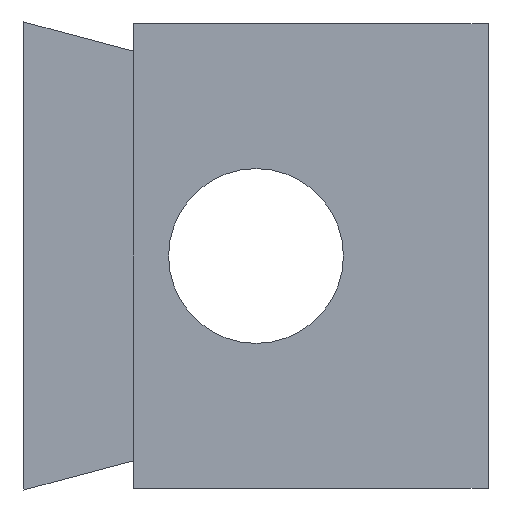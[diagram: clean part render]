
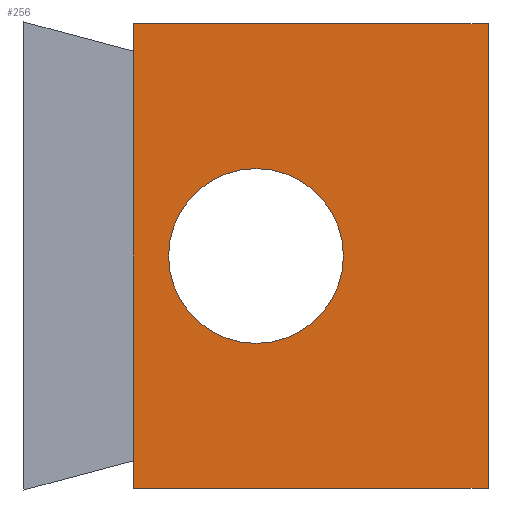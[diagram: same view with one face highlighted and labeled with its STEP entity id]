
A CAD part, left-side view. The second image highlights one B-rep face of the part: STEP entity #256.
In plain terms, the highlighted planar face has unit normal (-1, 0, 0).
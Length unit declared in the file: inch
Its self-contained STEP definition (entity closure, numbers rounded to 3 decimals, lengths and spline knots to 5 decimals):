
#31=FACE_BOUND('',#55,.T.);
#33=CIRCLE('',#292,0.16);
#39=FACE_OUTER_BOUND('',#54,.T.);
#54=EDGE_LOOP('',(#172,#173,#174,#175));
#55=EDGE_LOOP('',(#176));
#71=LINE('',#374,#91);
#72=LINE('',#376,#92);
#73=LINE('',#378,#93);
#74=LINE('',#379,#94);
#91=VECTOR('',#314,0.3937);
#92=VECTOR('',#315,0.3937);
#93=VECTOR('',#316,0.3937);
#94=VECTOR('',#317,0.3937);
#111=VERTEX_POINT('',#372);
#112=VERTEX_POINT('',#373);
#113=VERTEX_POINT('',#375);
#114=VERTEX_POINT('',#377);
#115=VERTEX_POINT('',#380);
#135=EDGE_CURVE('',#111,#112,#71,.T.);
#136=EDGE_CURVE('',#112,#113,#72,.T.);
#137=EDGE_CURVE('',#113,#114,#73,.T.);
#138=EDGE_CURVE('',#114,#111,#74,.T.);
#139=EDGE_CURVE('',#115,#115,#33,.T.);
#172=ORIENTED_EDGE('',*,*,#135,.T.);
#173=ORIENTED_EDGE('',*,*,#136,.T.);
#174=ORIENTED_EDGE('',*,*,#137,.T.);
#175=ORIENTED_EDGE('',*,*,#138,.T.);
#176=ORIENTED_EDGE('',*,*,#139,.T.);
#246=PLANE('',#291);
#256=ADVANCED_FACE('',(#39,#31),#246,.T.);
#291=AXIS2_PLACEMENT_3D('',#371,#312,#313);
#292=AXIS2_PLACEMENT_3D('',#381,#318,#319);
#312=DIRECTION('center_axis',(-1.,0.,0.));
#313=DIRECTION('ref_axis',(0.,0.,1.));
#314=DIRECTION('',(0.,1.,0.));
#315=DIRECTION('',(0.,0.,-1.));
#316=DIRECTION('',(0.,-1.,0.));
#317=DIRECTION('',(0.,0.,1.));
#318=DIRECTION('center_axis',(1.,0.,0.));
#319=DIRECTION('ref_axis',(0.,0.,-1.));
#371=CARTESIAN_POINT('Origin',(0.,0.325,8.47125));
#372=CARTESIAN_POINT('',(0.,0.,8.89625));
#373=CARTESIAN_POINT('',(0.,0.65,8.89625));
#374=CARTESIAN_POINT('',(0.,0.,8.89625));
#375=CARTESIAN_POINT('',(0.,0.65,8.04625));
#376=CARTESIAN_POINT('',(0.,0.65,8.89625));
#377=CARTESIAN_POINT('',(0.,0.,8.04625));
#378=CARTESIAN_POINT('',(0.,0.65,8.04625));
#379=CARTESIAN_POINT('',(0.,0.,8.04625));
#380=CARTESIAN_POINT('',(0.,0.425,8.31125));
#381=CARTESIAN_POINT('Origin',(0.,0.425,8.47125));
